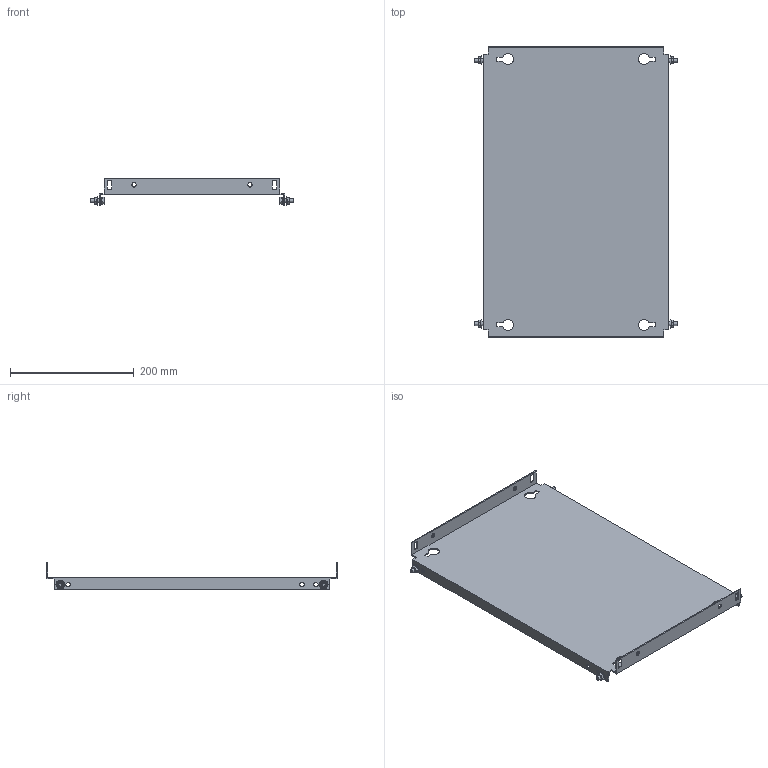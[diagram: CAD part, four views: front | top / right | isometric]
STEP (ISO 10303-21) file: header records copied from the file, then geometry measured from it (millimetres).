
FILE_DESCRIPTION(('Open CASCADE Model'),'2;1');
FILE_NAME('Open CASCADE Shape Model','2025-02-20T13:24:44',('Author'),( 'Open CASCADE'),'Open CASCADE STEP processor 7.8','Open CASCADE 7.8' ,'Unknown');
FILE_SCHEMA(('AUTOMOTIVE_DESIGN { 1 0 10303 214 1 1 1 1 }'));
Length unit declared in the file: millimetre
Products named in the file (4): Compound1; Solid1; Solid2; Solid3
Assembly tree (9 placements, depth 2):
  Compound1
    Solid1
    Solid2  x4
    Solid3  x4
Bounding box: 328 x 469 x 43 mm (x, y, z)
Volume: 340149.8 mm3; surface area: 344139.8 mm2
Topology: 9 solids, 9 shells, 308 faces, 753 edges, 467 vertices
Faces by surface type: plane 150, cone 68, bspline 48, cylinder 30, torus 12
Full cylindrical faces by diameter (mm): 5 x4, 6 x8, 7 x14
Entity records: 4930 total; most frequent: CARTESIAN_POINT 1377, ORIENTED_EDGE 756, DIRECTION 642, EDGE_CURVE 378, VERTEX_POINT 245, LINE 216, VECTOR 216, AXIS2_PLACEMENT_3D 213
